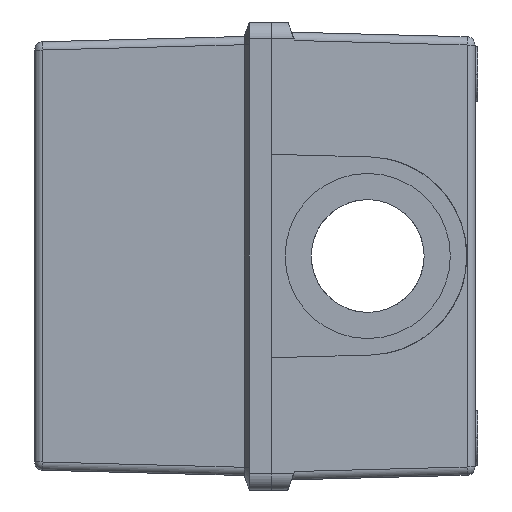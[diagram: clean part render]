
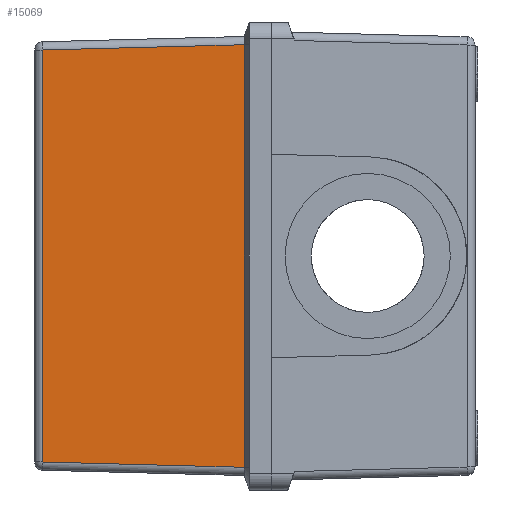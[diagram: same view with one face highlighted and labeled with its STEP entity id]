
A CAD part, left-side view. The second image highlights one B-rep face of the part: STEP entity #15069.
In plain terms, the highlighted planar face has unit normal (-1, 0.026, 0) as drawn and (-1, -0.026, 0) by its records, which use the part's own axes.
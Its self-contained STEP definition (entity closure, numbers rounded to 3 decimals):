
#11908=CARTESIAN_POINT('',(-121.871,38.045,
-38.372));
#12328=DIRECTION('',(0.,0.,1.));
#12329=VECTOR('',#12328,76.743);
#12330=CARTESIAN_POINT('',(-121.871,38.045,
-38.372));
#12331=LINE('',#12330,#12329);
#12332=DIRECTION('',(0.026,-0.999,-0.026));
#12333=VECTOR('',#12332,36.609);
#12334=CARTESIAN_POINT('',(-121.871,38.045,
38.372));
#12335=LINE('',#12334,#12333);
#12336=DIRECTION('',(0.,0.,-1.));
#12337=VECTOR('',#12336,74.828);
#12338=CARTESIAN_POINT('',(-120.913,1.461,
37.414));
#12339=LINE('',#12338,#12337);
#12340=DIRECTION('',(-0.026,0.999,-0.026));
#12341=VECTOR('',#12340,36.609);
#12342=CARTESIAN_POINT('',(-120.913,1.461,
-37.414));
#12343=LINE('',#12342,#12341);
#13956=CARTESIAN_POINT('',(-120.913,1.461,
37.414));
#13957=CARTESIAN_POINT('',(-120.913,1.461,
-37.414));
#13958=VERTEX_POINT('',#13956);
#13959=VERTEX_POINT('',#13957);
#13989=VERTEX_POINT('',#11908);
#13991=CARTESIAN_POINT('',(-121.871,38.045,
38.372));
#13992=VERTEX_POINT('',#13991);
#15057=CARTESIAN_POINT('',(-122.001,42.985,-38.875));
#15058=DIRECTION('',(-1.,-0.026,0.));
#15059=DIRECTION('',(0.026,-1.,0.));
#15060=AXIS2_PLACEMENT_3D('',#15057,#15058,#15059);
#15061=PLANE('',#15060);
#15062=ORIENTED_EDGE('',*,*,#15048,.T.);
#15063=ORIENTED_EDGE('',*,*,#14985,.T.);
#15065=ORIENTED_EDGE('',*,*,#15064,.T.);
#15066=ORIENTED_EDGE('',*,*,#14567,.T.);
#15067=EDGE_LOOP('',(#15062,#15063,#15065,#15066));
#15068=FACE_OUTER_BOUND('',#15067,.F.);
#15069=ADVANCED_FACE('',(#15068),#15061,.T.);
#14567=EDGE_CURVE('',#13959,#13989,#12343,.T.);
#14985=EDGE_CURVE('',#13992,#13958,#12335,.T.);
#15048=EDGE_CURVE('',#13989,#13992,#12331,.T.);
#15064=EDGE_CURVE('',#13958,#13959,#12339,.T.);
